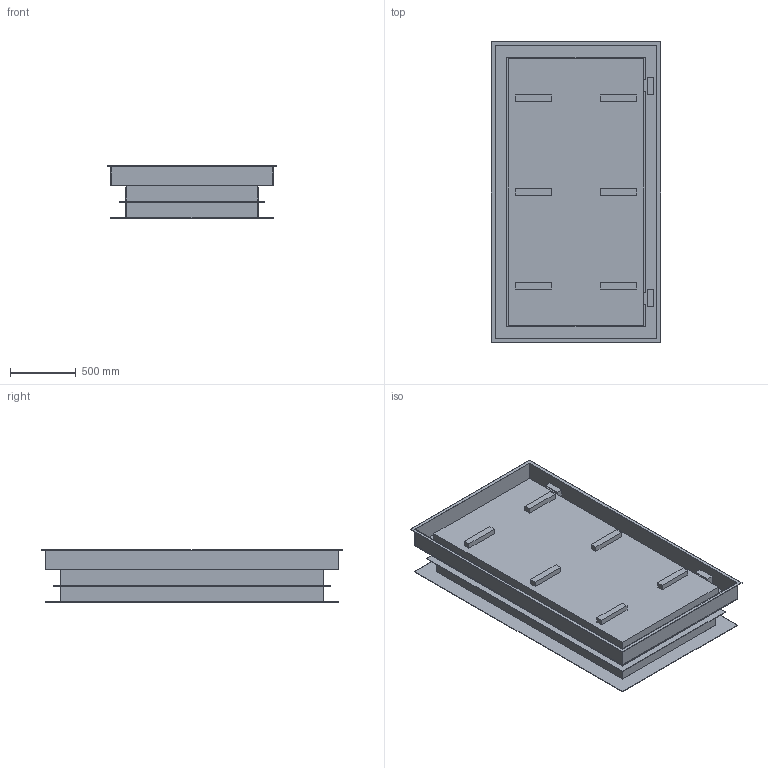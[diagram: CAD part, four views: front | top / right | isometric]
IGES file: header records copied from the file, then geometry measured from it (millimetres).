
Start section:  PTC IGES file: 52274391.igs
Global section: file name: 52274391.igs; native system: Creo Parametric by PTC Inc.; preprocessor: 2022162; author: ka; organization: Unknown; date: 20240814.095528; units: millimetre
Bounding box: 1290 x 2290 x 400 mm (x, y, z)
Surface area: 14398128 mm2 (no closed solid volume)
Topology: 0 solids, 0 shells, 129 faces, 624 edges, 624 vertices
Faces by surface type: bspline 129
